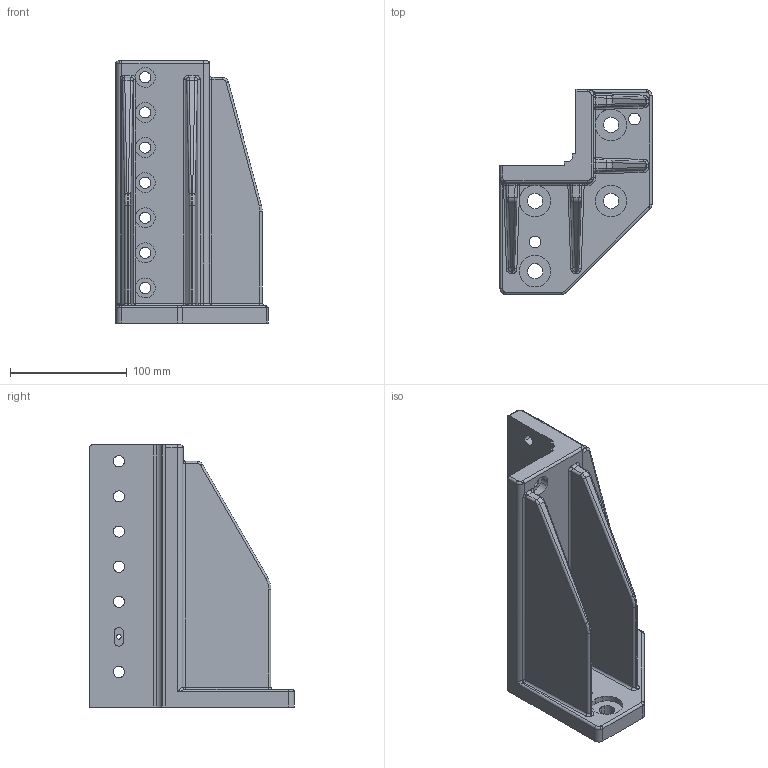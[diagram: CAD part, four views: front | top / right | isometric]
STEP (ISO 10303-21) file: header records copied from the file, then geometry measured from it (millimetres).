
FILE_DESCRIPTION(('STEP AP214'),'1');
FILE_NAME('EGT208_1698042_WINKEL_F_SENKR_ANBINDUNG_SW80.CATPart.stp','2015-09-14T13:13:12',('3D-Tool'),(' '),'Spatial InterOp 3D',' ',' ');
FILE_SCHEMA(('automotive_design'));
Length unit declared in the file: millimetre
Products named in the file (1): EGT208_1698042_WINKEL_F_SENKR_ANBINDUNG_SW80|EGT208|Solid.1
Bounding box: 130 x 175 x 224 mm (x, y, z)
Volume: 951413.5 mm3; surface area: 181449.2 mm2
Topology: 1 solids, 1 shells, 344 faces, 925 edges, 576 vertices
Faces by surface type: cylinder 227, plane 56, bspline 28, torus 25, sphere 8
Entity records: 16046 total; most frequent: CARTESIAN_POINT 4604, DIRECTION 1860, ORIENTED_EDGE 1830, EDGE_CURVE 915, AXIS2_PLACEMENT_3D 757, VERTEX_POINT 576, CIRCLE 440, EDGE_LOOP 387
